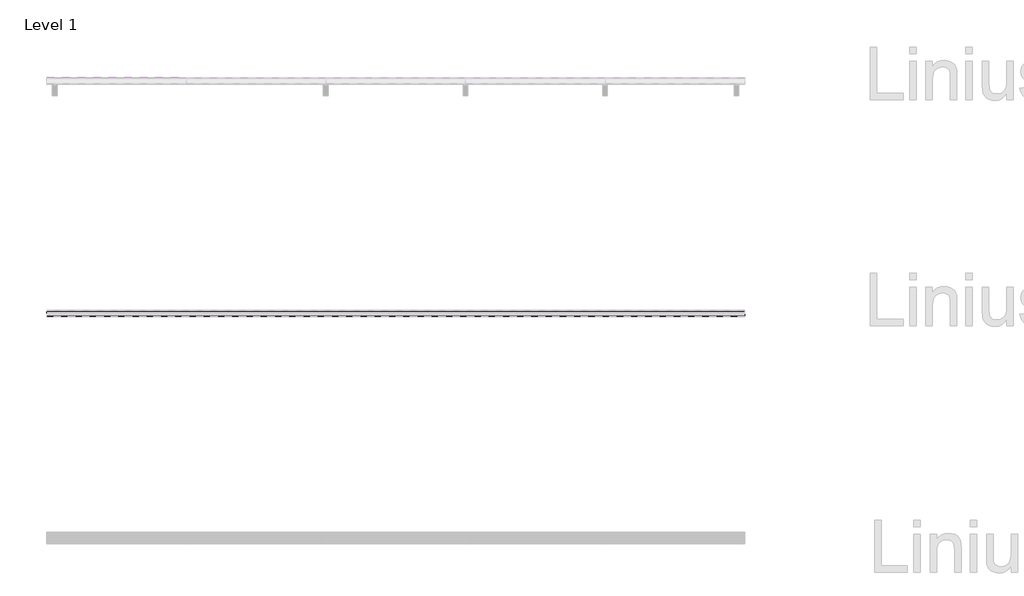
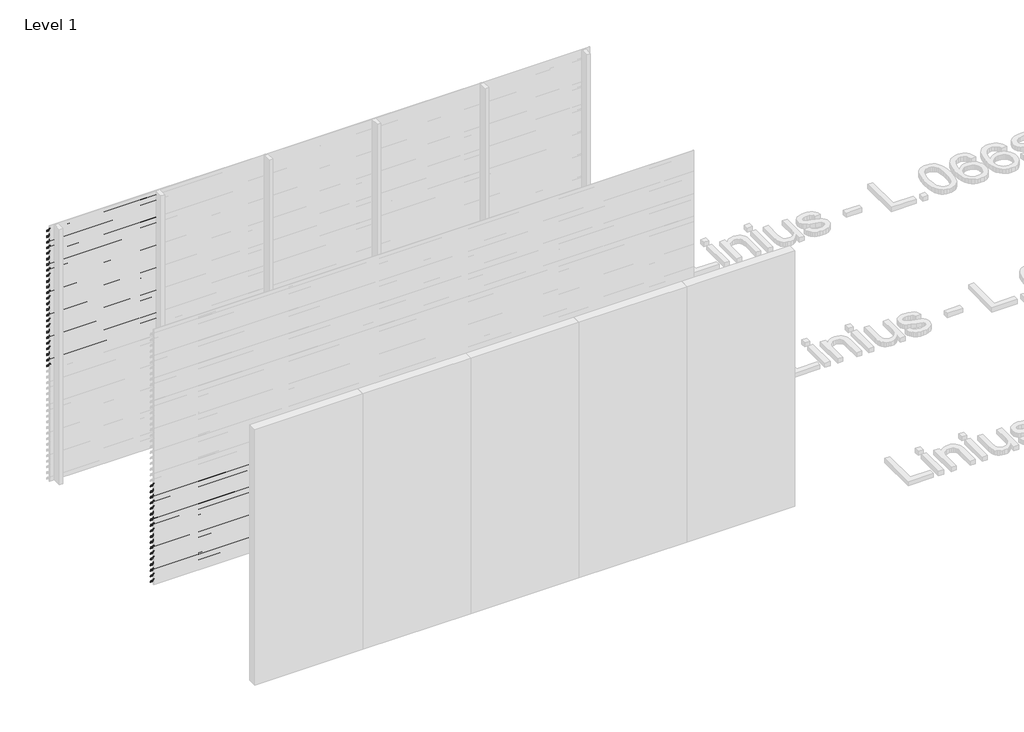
# One storey, part 138 of 540: 43 proxies.
"""IFC4 building model written with IfcOpenShell, lengths in millimetres."""

from ifc_helpers import new_model, si_unit, point, frame, frame_2d, origin, place, context, project, spatial, polyline, circle_curve, trimmed, segment, composite_curve, outline, extrude, element, save

model = new_model("IFC4")

# Units and contexts
model_context = context("Model", 3, world=origin())
ifc_project = project(units=[si_unit("LENGTHUNIT", "METRE", prefix="MILLI")], contexts=[model_context])

# Site, building, storey
site = spatial("IfcSite", under=ifc_project)
building = spatial("IfcBuilding", under=site)
storey = spatial("IfcBuildingStorey", under=building, Name="Level 1", Elevation=0.0)

# Proxies
placement = place(None, origin())
element("IfcBuildingElementProxy", 1, Name="Wall Sweeps", at=placement, inside=storey, context=model_context, shape_type="SweptSolid", body=[
    extrude(outline(composite_curve([segment(trimmed(circle_curve(frame_2d((29013.609548, 2899.7676769)), 26.4944656), [point((29030.5717655, 2920.1205608))], [point((29040.0540136, 2901.3946208))], False, "CARTESIAN"), True, "CONTINUOUS"), segment(polyline([(29040.0540136, 2901.3946208), (29040.0540136, 2893.5), (29038.8040136, 2894.2216933), (29038.8040136, 2899.7676769)]), True, "CONTINUOUS"), segment(trimmed(circle_curve(frame_2d((29013.609548, 2899.7676769)), 25.1944656), [point((29038.8040136, 2899.7676769))], [point((29029.7815085, 2919.086807))], True, "CARTESIAN"), True, "CONTINUOUS"), segment(polyline([(29029.7815085, 2919.086807), (28985.0540136, 2950.3158044), (28985.0540136, 2970.0), (28986.3040136, 2970.0), (28986.3040136, 2951.0285629), (29030.5717655, 2920.1205608)]), True, "CONTINUOUS")], self_intersect=False)), frame((89466.6208097, 0.0, 0.0), z_axis=(1.0, 0.0, 0.0), x_axis=(0.0, 1.0, 0.0)), (0.0, 0.0, 1.0), 1200.0000002),
])
element("IfcBuildingElementProxy", 2, Name="Wall Sweeps", at=placement, inside=storey, context=model_context, shape_type="SweptSolid", body=[
    extrude(outline(composite_curve([segment(trimmed(circle_curve(frame_2d((29013.609548, 2833.7676769)), 26.4944656), [point((29030.5717655, 2854.1205608))], [point((29040.0540136, 2835.3946208))], False, "CARTESIAN"), True, "CONTINUOUS"), segment(polyline([(29040.0540136, 2835.3946208), (29040.0540136, 2827.5), (29038.8040136, 2828.2216933), (29038.8040136, 2833.7676769)]), True, "CONTINUOUS"), segment(trimmed(circle_curve(frame_2d((29013.609548, 2833.7676769)), 25.1944656), [point((29038.8040136, 2833.7676769))], [point((29029.7815085, 2853.086807))], True, "CARTESIAN"), True, "CONTINUOUS"), segment(polyline([(29029.7815085, 2853.086807), (28985.0540136, 2884.3158044), (28985.0540136, 2904.0), (28986.3040136, 2904.0), (28986.3040136, 2885.0285629), (29030.5717655, 2854.1205608)]), True, "CONTINUOUS")], self_intersect=False)), frame((89466.6208097, 0.0, 0.0), z_axis=(1.0, 0.0, 0.0), x_axis=(0.0, 1.0, 0.0)), (0.0, 0.0, 1.0), 1200.0000002),
])
element("IfcBuildingElementProxy", 3, Name="Wall Sweeps", at=placement, inside=storey, context=model_context, shape_type="SweptSolid", body=[
    extrude(outline(composite_curve([segment(trimmed(circle_curve(frame_2d((29013.609548, 2767.7676769)), 26.4944656), [point((29030.5717655, 2788.1205608))], [point((29040.0540136, 2769.3946208))], False, "CARTESIAN"), True, "CONTINUOUS"), segment(polyline([(29040.0540136, 2769.3946208), (29040.0540136, 2761.5), (29038.8040136, 2762.2216933), (29038.8040136, 2767.7676769)]), True, "CONTINUOUS"), segment(trimmed(circle_curve(frame_2d((29013.609548, 2767.7676769)), 25.1944656), [point((29038.8040136, 2767.7676769))], [point((29029.7815085, 2787.086807))], True, "CARTESIAN"), True, "CONTINUOUS"), segment(polyline([(29029.7815085, 2787.086807), (28985.0540136, 2818.3158044), (28985.0540136, 2838.0), (28986.3040136, 2838.0), (28986.3040136, 2819.0285629), (29030.5717655, 2788.1205608)]), True, "CONTINUOUS")], self_intersect=False)), frame((89466.6208097, 0.0, 0.0), z_axis=(1.0, 0.0, 0.0), x_axis=(0.0, 1.0, 0.0)), (0.0, 0.0, 1.0), 1200.0000002),
])
element("IfcBuildingElementProxy", 4, Name="Wall Sweeps", at=placement, inside=storey, context=model_context, shape_type="SweptSolid", body=[
    extrude(outline(composite_curve([segment(trimmed(circle_curve(frame_2d((29013.609548, 2701.7676769)), 26.4944656), [point((29030.5717655, 2722.1205608))], [point((29040.0540136, 2703.3946208))], False, "CARTESIAN"), True, "CONTINUOUS"), segment(polyline([(29040.0540136, 2703.3946208), (29040.0540136, 2695.5), (29038.8040136, 2696.2216933), (29038.8040136, 2701.7676769)]), True, "CONTINUOUS"), segment(trimmed(circle_curve(frame_2d((29013.609548, 2701.7676769)), 25.1944656), [point((29038.8040136, 2701.7676769))], [point((29029.7815085, 2721.086807))], True, "CARTESIAN"), True, "CONTINUOUS"), segment(polyline([(29029.7815085, 2721.086807), (28985.0540136, 2752.3158044), (28985.0540136, 2772.0), (28986.3040136, 2772.0), (28986.3040136, 2753.0285629), (29030.5717655, 2722.1205608)]), True, "CONTINUOUS")], self_intersect=False)), frame((89466.6208097, 0.0, 0.0), z_axis=(1.0, 0.0, 0.0), x_axis=(0.0, 1.0, 0.0)), (0.0, 0.0, 1.0), 1200.0000002),
])
element("IfcBuildingElementProxy", 5, Name="Wall Sweeps", at=placement, inside=storey, context=model_context, shape_type="SweptSolid", body=[
    extrude(outline(composite_curve([segment(trimmed(circle_curve(frame_2d((29013.609548, 2635.7676769)), 26.4944656), [point((29030.5717655, 2656.1205608))], [point((29040.0540136, 2637.3946208))], False, "CARTESIAN"), True, "CONTINUOUS"), segment(polyline([(29040.0540136, 2637.3946208), (29040.0540136, 2629.5), (29038.8040136, 2630.2216933), (29038.8040136, 2635.7676769)]), True, "CONTINUOUS"), segment(trimmed(circle_curve(frame_2d((29013.609548, 2635.7676769)), 25.1944656), [point((29038.8040136, 2635.7676769))], [point((29029.7815085, 2655.086807))], True, "CARTESIAN"), True, "CONTINUOUS"), segment(polyline([(29029.7815085, 2655.086807), (28985.0540136, 2686.3158044), (28985.0540136, 2706.0), (28986.3040136, 2706.0), (28986.3040136, 2687.0285629), (29030.5717655, 2656.1205608)]), True, "CONTINUOUS")], self_intersect=False)), frame((89466.6208097, 0.0, 0.0), z_axis=(1.0, 0.0, 0.0), x_axis=(0.0, 1.0, 0.0)), (0.0, 0.0, 1.0), 1200.0000002),
])
element("IfcBuildingElementProxy", 6, Name="Wall Sweeps", at=placement, inside=storey, context=model_context, shape_type="SweptSolid", body=[
    extrude(outline(composite_curve([segment(trimmed(circle_curve(frame_2d((29013.609548, 2569.7676769)), 26.4944656), [point((29030.5717655, 2590.1205608))], [point((29040.0540136, 2571.3946208))], False, "CARTESIAN"), True, "CONTINUOUS"), segment(polyline([(29040.0540136, 2571.3946208), (29040.0540136, 2563.5), (29038.8040136, 2564.2216933), (29038.8040136, 2569.7676769)]), True, "CONTINUOUS"), segment(trimmed(circle_curve(frame_2d((29013.609548, 2569.7676769)), 25.1944656), [point((29038.8040136, 2569.7676769))], [point((29029.7815085, 2589.086807))], True, "CARTESIAN"), True, "CONTINUOUS"), segment(polyline([(29029.7815085, 2589.086807), (28985.0540136, 2620.3158044), (28985.0540136, 2640.0), (28986.3040136, 2640.0), (28986.3040136, 2621.0285629), (29030.5717655, 2590.1205608)]), True, "CONTINUOUS")], self_intersect=False)), frame((89466.6208097, 0.0, 0.0), z_axis=(1.0, 0.0, 0.0), x_axis=(0.0, 1.0, 0.0)), (0.0, 0.0, 1.0), 1200.0000002),
])
element("IfcBuildingElementProxy", 7, Name="Wall Sweeps", at=placement, inside=storey, context=model_context, shape_type="SweptSolid", body=[
    extrude(outline(composite_curve([segment(trimmed(circle_curve(frame_2d((29013.609548, 2503.7676769)), 26.4944656), [point((29030.5717655, 2524.1205608))], [point((29040.0540136, 2505.3946208))], False, "CARTESIAN"), True, "CONTINUOUS"), segment(polyline([(29040.0540136, 2505.3946208), (29040.0540136, 2497.5), (29038.8040136, 2498.2216933), (29038.8040136, 2503.7676769)]), True, "CONTINUOUS"), segment(trimmed(circle_curve(frame_2d((29013.609548, 2503.7676769)), 25.1944656), [point((29038.8040136, 2503.7676769))], [point((29029.7815085, 2523.086807))], True, "CARTESIAN"), True, "CONTINUOUS"), segment(polyline([(29029.7815085, 2523.086807), (28985.0540136, 2554.3158044), (28985.0540136, 2574.0), (28986.3040136, 2574.0), (28986.3040136, 2555.0285629), (29030.5717655, 2524.1205608)]), True, "CONTINUOUS")], self_intersect=False)), frame((89466.6208097, 0.0, 0.0), z_axis=(1.0, 0.0, 0.0), x_axis=(0.0, 1.0, 0.0)), (0.0, 0.0, 1.0), 1200.0000002),
])
element("IfcBuildingElementProxy", 8, Name="Wall Sweeps", at=placement, inside=storey, context=model_context, shape_type="SweptSolid", body=[
    extrude(outline(composite_curve([segment(trimmed(circle_curve(frame_2d((29013.609548, 2437.7676769)), 26.4944656), [point((29030.5717655, 2458.1205608))], [point((29040.0540136, 2439.3946208))], False, "CARTESIAN"), True, "CONTINUOUS"), segment(polyline([(29040.0540136, 2439.3946208), (29040.0540136, 2431.5), (29038.8040136, 2432.2216933), (29038.8040136, 2437.7676769)]), True, "CONTINUOUS"), segment(trimmed(circle_curve(frame_2d((29013.609548, 2437.7676769)), 25.1944656), [point((29038.8040136, 2437.7676769))], [point((29029.7815085, 2457.086807))], True, "CARTESIAN"), True, "CONTINUOUS"), segment(polyline([(29029.7815085, 2457.086807), (28985.0540136, 2488.3158044), (28985.0540136, 2508.0), (28986.3040136, 2508.0), (28986.3040136, 2489.0285629), (29030.5717655, 2458.1205608)]), True, "CONTINUOUS")], self_intersect=False)), frame((89466.6208097, 0.0, 0.0), z_axis=(1.0, 0.0, 0.0), x_axis=(0.0, 1.0, 0.0)), (0.0, 0.0, 1.0), 1200.0000002),
])
element("IfcBuildingElementProxy", 9, Name="Wall Sweeps", at=placement, inside=storey, context=model_context, shape_type="SweptSolid", body=[
    extrude(outline(composite_curve([segment(trimmed(circle_curve(frame_2d((29013.609548, 2371.7676769)), 26.4944656), [point((29030.5717655, 2392.1205608))], [point((29040.0540136, 2373.3946208))], False, "CARTESIAN"), True, "CONTINUOUS"), segment(polyline([(29040.0540136, 2373.3946208), (29040.0540136, 2365.5), (29038.8040136, 2366.2216933), (29038.8040136, 2371.7676769)]), True, "CONTINUOUS"), segment(trimmed(circle_curve(frame_2d((29013.609548, 2371.7676769)), 25.1944656), [point((29038.8040136, 2371.7676769))], [point((29029.7815085, 2391.086807))], True, "CARTESIAN"), True, "CONTINUOUS"), segment(polyline([(29029.7815085, 2391.086807), (28985.0540136, 2422.3158044), (28985.0540136, 2442.0), (28986.3040136, 2442.0), (28986.3040136, 2423.0285629), (29030.5717655, 2392.1205608)]), True, "CONTINUOUS")], self_intersect=False)), frame((89466.6208097, 0.0, 0.0), z_axis=(1.0, 0.0, 0.0), x_axis=(0.0, 1.0, 0.0)), (0.0, 0.0, 1.0), 1200.0000002),
])
element("IfcBuildingElementProxy", 10, Name="Wall Sweeps", at=placement, inside=storey, context=model_context, shape_type="SweptSolid", body=[
    extrude(outline(composite_curve([segment(trimmed(circle_curve(frame_2d((29013.609548, 2305.7676769)), 26.4944656), [point((29030.5717655, 2326.1205608))], [point((29040.0540136, 2307.3946208))], False, "CARTESIAN"), True, "CONTINUOUS"), segment(polyline([(29040.0540136, 2307.3946208), (29040.0540136, 2299.5), (29038.8040136, 2300.2216933), (29038.8040136, 2305.7676769)]), True, "CONTINUOUS"), segment(trimmed(circle_curve(frame_2d((29013.609548, 2305.7676769)), 25.1944656), [point((29038.8040136, 2305.7676769))], [point((29029.7815085, 2325.086807))], True, "CARTESIAN"), True, "CONTINUOUS"), segment(polyline([(29029.7815085, 2325.086807), (28985.0540136, 2356.3158044), (28985.0540136, 2376.0), (28986.3040136, 2376.0), (28986.3040136, 2357.0285629), (29030.5717655, 2326.1205608)]), True, "CONTINUOUS")], self_intersect=False)), frame((89466.6208097, 0.0, 0.0), z_axis=(1.0, 0.0, 0.0), x_axis=(0.0, 1.0, 0.0)), (0.0, 0.0, 1.0), 1200.0000002),
])
element("IfcBuildingElementProxy", 11, Name="Wall Sweeps", at=placement, inside=storey, context=model_context, shape_type="SweptSolid", body=[
    extrude(outline(composite_curve([segment(trimmed(circle_curve(frame_2d((29013.609548, 2239.7676769)), 26.4944656), [point((29030.5717655, 2260.1205608))], [point((29040.0540136, 2241.3946208))], False, "CARTESIAN"), True, "CONTINUOUS"), segment(polyline([(29040.0540136, 2241.3946208), (29040.0540136, 2233.5), (29038.8040136, 2234.2216933), (29038.8040136, 2239.7676769)]), True, "CONTINUOUS"), segment(trimmed(circle_curve(frame_2d((29013.609548, 2239.7676769)), 25.1944656), [point((29038.8040136, 2239.7676769))], [point((29029.7815085, 2259.086807))], True, "CARTESIAN"), True, "CONTINUOUS"), segment(polyline([(29029.7815085, 2259.086807), (28985.0540136, 2290.3158044), (28985.0540136, 2310.0), (28986.3040136, 2310.0), (28986.3040136, 2291.0285629), (29030.5717655, 2260.1205608)]), True, "CONTINUOUS")], self_intersect=False)), frame((89466.6208097, 0.0, 0.0), z_axis=(1.0, 0.0, 0.0), x_axis=(0.0, 1.0, 0.0)), (0.0, 0.0, 1.0), 1200.0000002),
])
element("IfcBuildingElementProxy", 12, Name="Wall Sweeps", at=placement, inside=storey, context=model_context, shape_type="SweptSolid", body=[
    extrude(outline(composite_curve([segment(trimmed(circle_curve(frame_2d((29013.609548, 2173.7676769)), 26.4944656), [point((29030.5717655, 2194.1205608))], [point((29040.0540136, 2175.3946208))], False, "CARTESIAN"), True, "CONTINUOUS"), segment(polyline([(29040.0540136, 2175.3946208), (29040.0540136, 2167.5), (29038.8040136, 2168.2216933), (29038.8040136, 2173.7676769)]), True, "CONTINUOUS"), segment(trimmed(circle_curve(frame_2d((29013.609548, 2173.7676769)), 25.1944656), [point((29038.8040136, 2173.7676769))], [point((29029.7815085, 2193.086807))], True, "CARTESIAN"), True, "CONTINUOUS"), segment(polyline([(29029.7815085, 2193.086807), (28985.0540136, 2224.3158044), (28985.0540136, 2244.0), (28986.3040136, 2244.0), (28986.3040136, 2225.0285629), (29030.5717655, 2194.1205608)]), True, "CONTINUOUS")], self_intersect=False)), frame((89466.6208097, 0.0, 0.0), z_axis=(1.0, 0.0, 0.0), x_axis=(0.0, 1.0, 0.0)), (0.0, 0.0, 1.0), 1200.0000002),
])
element("IfcBuildingElementProxy", 13, Name="Wall Sweeps", at=placement, inside=storey, context=model_context, shape_type="SweptSolid", body=[
    extrude(outline(composite_curve([segment(trimmed(circle_curve(frame_2d((29013.609548, 2107.7676769)), 26.4944656), [point((29030.5717655, 2128.1205608))], [point((29040.0540136, 2109.3946208))], False, "CARTESIAN"), True, "CONTINUOUS"), segment(polyline([(29040.0540136, 2109.3946208), (29040.0540136, 2101.5), (29038.8040136, 2102.2216933), (29038.8040136, 2107.7676769)]), True, "CONTINUOUS"), segment(trimmed(circle_curve(frame_2d((29013.609548, 2107.7676769)), 25.1944656), [point((29038.8040136, 2107.7676769))], [point((29029.7815085, 2127.086807))], True, "CARTESIAN"), True, "CONTINUOUS"), segment(polyline([(29029.7815085, 2127.086807), (28985.0540136, 2158.3158044), (28985.0540136, 2178.0), (28986.3040136, 2178.0), (28986.3040136, 2159.0285629), (29030.5717655, 2128.1205608)]), True, "CONTINUOUS")], self_intersect=False)), frame((89466.6208097, 0.0, 0.0), z_axis=(1.0, 0.0, 0.0), x_axis=(0.0, 1.0, 0.0)), (0.0, 0.0, 1.0), 1200.0000002),
])
element("IfcBuildingElementProxy", 14, Name="Wall Sweeps", at=placement, inside=storey, context=model_context, shape_type="SweptSolid", body=[
    extrude(outline(composite_curve([segment(trimmed(circle_curve(frame_2d((29013.609548, 2041.7676769)), 26.4944656), [point((29030.5717655, 2062.1205608))], [point((29040.0540136, 2043.3946208))], False, "CARTESIAN"), True, "CONTINUOUS"), segment(polyline([(29040.0540136, 2043.3946208), (29040.0540136, 2035.5), (29038.8040136, 2036.2216933), (29038.8040136, 2041.7676769)]), True, "CONTINUOUS"), segment(trimmed(circle_curve(frame_2d((29013.609548, 2041.7676769)), 25.1944656), [point((29038.8040136, 2041.7676769))], [point((29029.7815085, 2061.086807))], True, "CARTESIAN"), True, "CONTINUOUS"), segment(polyline([(29029.7815085, 2061.086807), (28985.0540136, 2092.3158044), (28985.0540136, 2112.0), (28986.3040136, 2112.0), (28986.3040136, 2093.0285629), (29030.5717655, 2062.1205608)]), True, "CONTINUOUS")], self_intersect=False)), frame((89466.6208097, 0.0, 0.0), z_axis=(1.0, 0.0, 0.0), x_axis=(0.0, 1.0, 0.0)), (0.0, 0.0, 1.0), 1200.0000002),
])
element("IfcBuildingElementProxy", 15, Name="Wall Sweeps", at=placement, inside=storey, context=model_context, shape_type="SweptSolid", body=[
    extrude(outline(composite_curve([segment(trimmed(circle_curve(frame_2d((29013.609548, 1975.7676769)), 26.4944656), [point((29030.5717655, 1996.1205608))], [point((29040.0540136, 1977.3946208))], False, "CARTESIAN"), True, "CONTINUOUS"), segment(polyline([(29040.0540136, 1977.3946208), (29040.0540136, 1969.5), (29038.8040136, 1970.2216933), (29038.8040136, 1975.7676769)]), True, "CONTINUOUS"), segment(trimmed(circle_curve(frame_2d((29013.609548, 1975.7676769)), 25.1944656), [point((29038.8040136, 1975.7676769))], [point((29029.7815085, 1995.086807))], True, "CARTESIAN"), True, "CONTINUOUS"), segment(polyline([(29029.7815085, 1995.086807), (28985.0540136, 2026.3158044), (28985.0540136, 2046.0), (28986.3040136, 2046.0), (28986.3040136, 2027.0285629), (29030.5717655, 1996.1205608)]), True, "CONTINUOUS")], self_intersect=False)), frame((89466.6208097, 0.0, 0.0), z_axis=(1.0, 0.0, 0.0), x_axis=(0.0, 1.0, 0.0)), (0.0, 0.0, 1.0), 1200.0000002),
])
element("IfcBuildingElementProxy", 16, Name="Wall Sweeps", at=placement, inside=storey, context=model_context, shape_type="SweptSolid", body=[
    extrude(outline(composite_curve([segment(trimmed(circle_curve(frame_2d((29013.609548, 1909.7676769)), 26.4944656), [point((29030.5717655, 1930.1205608))], [point((29040.0540136, 1911.3946208))], False, "CARTESIAN"), True, "CONTINUOUS"), segment(polyline([(29040.0540136, 1911.3946208), (29040.0540136, 1903.5), (29038.8040136, 1904.2216933), (29038.8040136, 1909.7676769)]), True, "CONTINUOUS"), segment(trimmed(circle_curve(frame_2d((29013.609548, 1909.7676769)), 25.1944656), [point((29038.8040136, 1909.7676769))], [point((29029.7815085, 1929.086807))], True, "CARTESIAN"), True, "CONTINUOUS"), segment(polyline([(29029.7815085, 1929.086807), (28985.0540136, 1960.3158044), (28985.0540136, 1980.0), (28986.3040136, 1980.0), (28986.3040136, 1961.0285629), (29030.5717655, 1930.1205608)]), True, "CONTINUOUS")], self_intersect=False)), frame((89466.6208097, 0.0, 0.0), z_axis=(1.0, 0.0, 0.0), x_axis=(0.0, 1.0, 0.0)), (0.0, 0.0, 1.0), 1200.0000002),
])
element("IfcBuildingElementProxy", 17, Name="Wall Sweeps", at=placement, inside=storey, context=model_context, shape_type="SweptSolid", body=[
    extrude(outline(composite_curve([segment(trimmed(circle_curve(frame_2d((29013.609548, 1843.7676769)), 26.4944656), [point((29030.5717655, 1864.1205608))], [point((29040.0540136, 1845.3946208))], False, "CARTESIAN"), True, "CONTINUOUS"), segment(polyline([(29040.0540136, 1845.3946208), (29040.0540136, 1837.5), (29038.8040136, 1838.2216933), (29038.8040136, 1843.7676769)]), True, "CONTINUOUS"), segment(trimmed(circle_curve(frame_2d((29013.609548, 1843.7676769)), 25.1944656), [point((29038.8040136, 1843.7676769))], [point((29029.7815085, 1863.086807))], True, "CARTESIAN"), True, "CONTINUOUS"), segment(polyline([(29029.7815085, 1863.086807), (28985.0540136, 1894.3158044), (28985.0540136, 1914.0), (28986.3040136, 1914.0), (28986.3040136, 1895.0285629), (29030.5717655, 1864.1205608)]), True, "CONTINUOUS")], self_intersect=False)), frame((89466.6208097, 0.0, 0.0), z_axis=(1.0, 0.0, 0.0), x_axis=(0.0, 1.0, 0.0)), (0.0, 0.0, 1.0), 1200.0000002),
])
element("IfcBuildingElementProxy", 18, Name="Wall Sweeps", at=placement, inside=storey, context=model_context, shape_type="SweptSolid", body=[
    extrude(outline(composite_curve([segment(trimmed(circle_curve(frame_2d((29013.609548, 1777.7676769)), 26.4944656), [point((29030.5717655, 1798.1205608))], [point((29040.0540136, 1779.3946208))], False, "CARTESIAN"), True, "CONTINUOUS"), segment(polyline([(29040.0540136, 1779.3946208), (29040.0540136, 1771.5), (29038.8040136, 1772.2216933), (29038.8040136, 1777.7676769)]), True, "CONTINUOUS"), segment(trimmed(circle_curve(frame_2d((29013.609548, 1777.7676769)), 25.1944656), [point((29038.8040136, 1777.7676769))], [point((29029.7815085, 1797.086807))], True, "CARTESIAN"), True, "CONTINUOUS"), segment(polyline([(29029.7815085, 1797.086807), (28985.0540136, 1828.3158044), (28985.0540136, 1848.0), (28986.3040136, 1848.0), (28986.3040136, 1829.0285629), (29030.5717655, 1798.1205608)]), True, "CONTINUOUS")], self_intersect=False)), frame((89466.6208097, 0.0, 0.0), z_axis=(1.0, 0.0, 0.0), x_axis=(0.0, 1.0, 0.0)), (0.0, 0.0, 1.0), 1200.0000002),
])
element("IfcBuildingElementProxy", 19, Name="Wall Sweeps", at=placement, inside=storey, context=model_context, shape_type="SweptSolid", body=[
    extrude(outline(composite_curve([segment(trimmed(circle_curve(frame_2d((29013.609548, 1711.7676769)), 26.4944656), [point((29030.5717655, 1732.1205608))], [point((29040.0540136, 1713.3946208))], False, "CARTESIAN"), True, "CONTINUOUS"), segment(polyline([(29040.0540136, 1713.3946208), (29040.0540136, 1705.5), (29038.8040136, 1706.2216933), (29038.8040136, 1711.7676769)]), True, "CONTINUOUS"), segment(trimmed(circle_curve(frame_2d((29013.609548, 1711.7676769)), 25.1944656), [point((29038.8040136, 1711.7676769))], [point((29029.7815085, 1731.086807))], True, "CARTESIAN"), True, "CONTINUOUS"), segment(polyline([(29029.7815085, 1731.086807), (28985.0540136, 1762.3158044), (28985.0540136, 1782.0), (28986.3040136, 1782.0), (28986.3040136, 1763.0285629), (29030.5717655, 1732.1205608)]), True, "CONTINUOUS")], self_intersect=False)), frame((89466.6208097, 0.0, 0.0), z_axis=(1.0, 0.0, 0.0), x_axis=(0.0, 1.0, 0.0)), (0.0, 0.0, 1.0), 1200.0000002),
])
element("IfcBuildingElementProxy", 20, Name="Wall Sweeps", at=placement, inside=storey, context=model_context, shape_type="SweptSolid", body=[
    extrude(outline(composite_curve([segment(trimmed(circle_curve(frame_2d((29013.609548, 1645.7676769)), 26.4944656), [point((29030.5717655, 1666.1205608))], [point((29040.0540136, 1647.3946208))], False, "CARTESIAN"), True, "CONTINUOUS"), segment(polyline([(29040.0540136, 1647.3946208), (29040.0540136, 1639.5), (29038.8040136, 1640.2216933), (29038.8040136, 1645.7676769)]), True, "CONTINUOUS"), segment(trimmed(circle_curve(frame_2d((29013.609548, 1645.7676769)), 25.1944656), [point((29038.8040136, 1645.7676769))], [point((29029.7815085, 1665.086807))], True, "CARTESIAN"), True, "CONTINUOUS"), segment(polyline([(29029.7815085, 1665.086807), (28985.0540136, 1696.3158044), (28985.0540136, 1716.0), (28986.3040136, 1716.0), (28986.3040136, 1697.0285629), (29030.5717655, 1666.1205608)]), True, "CONTINUOUS")], self_intersect=False)), frame((89466.6208097, 0.0, 0.0), z_axis=(1.0, 0.0, 0.0), x_axis=(0.0, 1.0, 0.0)), (0.0, 0.0, 1.0), 1200.0000002),
])
element("IfcBuildingElementProxy", 21, Name="Wall Sweeps", at=placement, inside=storey, context=model_context, shape_type="SweptSolid", body=[
    extrude(outline(composite_curve([segment(trimmed(circle_curve(frame_2d((29013.609548, 1579.7676769)), 26.4944656), [point((29030.5717655, 1600.1205608))], [point((29040.0540136, 1581.3946208))], False, "CARTESIAN"), True, "CONTINUOUS"), segment(polyline([(29040.0540136, 1581.3946208), (29040.0540136, 1573.5), (29038.8040136, 1574.2216933), (29038.8040136, 1579.7676769)]), True, "CONTINUOUS"), segment(trimmed(circle_curve(frame_2d((29013.609548, 1579.7676769)), 25.1944656), [point((29038.8040136, 1579.7676769))], [point((29029.7815085, 1599.086807))], True, "CARTESIAN"), True, "CONTINUOUS"), segment(polyline([(29029.7815085, 1599.086807), (28985.0540136, 1630.3158044), (28985.0540136, 1650.0), (28986.3040136, 1650.0), (28986.3040136, 1631.0285629), (29030.5717655, 1600.1205608)]), True, "CONTINUOUS")], self_intersect=False)), frame((89466.6208097, 0.0, 0.0), z_axis=(1.0, 0.0, 0.0), x_axis=(0.0, 1.0, 0.0)), (0.0, 0.0, 1.0), 1200.0000002),
])
element("IfcBuildingElementProxy", 22, Name="Wall Sweeps", at=placement, inside=storey, context=model_context, shape_type="SweptSolid", body=[
    extrude(outline(composite_curve([segment(trimmed(circle_curve(frame_2d((29013.609548, 1513.7676769)), 26.4944656), [point((29030.5717655, 1534.1205608))], [point((29040.0540136, 1515.3946208))], False, "CARTESIAN"), True, "CONTINUOUS"), segment(polyline([(29040.0540136, 1515.3946208), (29040.0540136, 1507.5), (29038.8040136, 1508.2216933), (29038.8040136, 1513.7676769)]), True, "CONTINUOUS"), segment(trimmed(circle_curve(frame_2d((29013.609548, 1513.7676769)), 25.1944656), [point((29038.8040136, 1513.7676769))], [point((29029.7815085, 1533.086807))], True, "CARTESIAN"), True, "CONTINUOUS"), segment(polyline([(29029.7815085, 1533.086807), (28985.0540136, 1564.3158044), (28985.0540136, 1584.0), (28986.3040136, 1584.0), (28986.3040136, 1565.0285629), (29030.5717655, 1534.1205608)]), True, "CONTINUOUS")], self_intersect=False)), frame((89466.6208097, 0.0, 0.0), z_axis=(1.0, 0.0, 0.0), x_axis=(0.0, 1.0, 0.0)), (0.0, 0.0, 1.0), 1200.0000002),
])
element("IfcBuildingElementProxy", 23, Name="Wall Sweeps", at=placement, inside=storey, context=model_context, shape_type="SweptSolid", body=[
    extrude(outline(composite_curve([segment(trimmed(circle_curve(frame_2d((29013.609548, 1447.7676769)), 26.4944656), [point((29030.5717655, 1468.1205608))], [point((29040.0540136, 1449.3946208))], False, "CARTESIAN"), True, "CONTINUOUS"), segment(polyline([(29040.0540136, 1449.3946208), (29040.0540136, 1441.5), (29038.8040136, 1442.2216933), (29038.8040136, 1447.7676769)]), True, "CONTINUOUS"), segment(trimmed(circle_curve(frame_2d((29013.609548, 1447.7676769)), 25.1944656), [point((29038.8040136, 1447.7676769))], [point((29029.7815085, 1467.086807))], True, "CARTESIAN"), True, "CONTINUOUS"), segment(polyline([(29029.7815085, 1467.086807), (28985.0540136, 1498.3158044), (28985.0540136, 1518.0), (28986.3040136, 1518.0), (28986.3040136, 1499.0285629), (29030.5717655, 1468.1205608)]), True, "CONTINUOUS")], self_intersect=False)), frame((89466.6208097, 0.0, 0.0), z_axis=(1.0, 0.0, 0.0), x_axis=(0.0, 1.0, 0.0)), (0.0, 0.0, 1.0), 1200.0000002),
])
element("IfcBuildingElementProxy", 24, Name="Wall Sweeps", at=placement, inside=storey, context=model_context, shape_type="SweptSolid", body=[
    extrude(outline(composite_curve([segment(trimmed(circle_curve(frame_2d((29013.609548, 1381.7676769)), 26.4944656), [point((29030.5717655, 1402.1205608))], [point((29040.0540136, 1383.3946208))], False, "CARTESIAN"), True, "CONTINUOUS"), segment(polyline([(29040.0540136, 1383.3946208), (29040.0540136, 1375.5), (29038.8040136, 1376.2216933), (29038.8040136, 1381.7676769)]), True, "CONTINUOUS"), segment(trimmed(circle_curve(frame_2d((29013.609548, 1381.7676769)), 25.1944656), [point((29038.8040136, 1381.7676769))], [point((29029.7815085, 1401.086807))], True, "CARTESIAN"), True, "CONTINUOUS"), segment(polyline([(29029.7815085, 1401.086807), (28985.0540136, 1432.3158044), (28985.0540136, 1452.0), (28986.3040136, 1452.0), (28986.3040136, 1433.0285629), (29030.5717655, 1402.1205608)]), True, "CONTINUOUS")], self_intersect=False)), frame((89466.6208097, 0.0, 0.0), z_axis=(1.0, 0.0, 0.0), x_axis=(0.0, 1.0, 0.0)), (0.0, 0.0, 1.0), 1200.0000002),
])
element("IfcBuildingElementProxy", 25, Name="Wall Sweeps", at=placement, inside=storey, context=model_context, shape_type="SweptSolid", body=[
    extrude(outline(composite_curve([segment(trimmed(circle_curve(frame_2d((29013.609548, 1315.7676769)), 26.4944656), [point((29030.5717655, 1336.1205608))], [point((29040.0540136, 1317.3946208))], False, "CARTESIAN"), True, "CONTINUOUS"), segment(polyline([(29040.0540136, 1317.3946208), (29040.0540136, 1309.5), (29038.8040136, 1310.2216933), (29038.8040136, 1315.7676769)]), True, "CONTINUOUS"), segment(trimmed(circle_curve(frame_2d((29013.609548, 1315.7676769)), 25.1944656), [point((29038.8040136, 1315.7676769))], [point((29029.7815085, 1335.086807))], True, "CARTESIAN"), True, "CONTINUOUS"), segment(polyline([(29029.7815085, 1335.086807), (28985.0540136, 1366.3158044), (28985.0540136, 1386.0), (28986.3040136, 1386.0), (28986.3040136, 1367.0285629), (29030.5717655, 1336.1205608)]), True, "CONTINUOUS")], self_intersect=False)), frame((89466.6208097, 0.0, 0.0), z_axis=(1.0, 0.0, 0.0), x_axis=(0.0, 1.0, 0.0)), (0.0, 0.0, 1.0), 1200.0000002),
])
element("IfcBuildingElementProxy", 26, Name="Wall Sweeps", at=placement, inside=storey, context=model_context, shape_type="SweptSolid", body=[
    extrude(outline(composite_curve([segment(trimmed(circle_curve(frame_2d((27013.609548, 1117.7676769)), 26.4944656), [point((27030.5717655, 1138.1205608))], [point((27040.0540136, 1119.3946208))], False, "CARTESIAN"), True, "CONTINUOUS"), segment(polyline([(27040.0540136, 1119.3946208), (27040.0540136, 1111.5), (27038.8040136, 1112.2216933), (27038.8040136, 1117.7676769)]), True, "CONTINUOUS"), segment(trimmed(circle_curve(frame_2d((27013.609548, 1117.7676769)), 25.1944656), [point((27038.8040136, 1117.7676769))], [point((27029.7815085, 1137.086807))], True, "CARTESIAN"), True, "CONTINUOUS"), segment(polyline([(27029.7815085, 1137.086807), (26985.0540136, 1168.3158044), (26985.0540136, 1188.0), (26986.3040136, 1188.0), (26986.3040136, 1169.0285629), (27030.5717655, 1138.1205608)]), True, "CONTINUOUS")], self_intersect=False)), frame((89466.6208097, 0.0, 0.0), z_axis=(1.0, 0.0, 0.0), x_axis=(0.0, 1.0, 0.0)), (0.0, 0.0, 1.0), 6000.0),
])
element("IfcBuildingElementProxy", 27, Name="Wall Sweeps", at=placement, inside=storey, context=model_context, shape_type="SweptSolid", body=[
    extrude(outline(composite_curve([segment(trimmed(circle_curve(frame_2d((27013.609548, 1051.7676769)), 26.4944656), [point((27030.5717655, 1072.1205608))], [point((27040.0540136, 1053.3946208))], False, "CARTESIAN"), True, "CONTINUOUS"), segment(polyline([(27040.0540136, 1053.3946208), (27040.0540136, 1045.5), (27038.8040136, 1046.2216933), (27038.8040136, 1051.7676769)]), True, "CONTINUOUS"), segment(trimmed(circle_curve(frame_2d((27013.609548, 1051.7676769)), 25.1944656), [point((27038.8040136, 1051.7676769))], [point((27029.7815085, 1071.086807))], True, "CARTESIAN"), True, "CONTINUOUS"), segment(polyline([(27029.7815085, 1071.086807), (26985.0540136, 1102.3158044), (26985.0540136, 1122.0), (26986.3040136, 1122.0), (26986.3040136, 1103.0285629), (27030.5717655, 1072.1205608)]), True, "CONTINUOUS")], self_intersect=False)), frame((89466.6208097, 0.0, 0.0), z_axis=(1.0, 0.0, 0.0), x_axis=(0.0, 1.0, 0.0)), (0.0, 0.0, 1.0), 6000.0),
])
element("IfcBuildingElementProxy", 28, Name="Wall Sweeps", at=placement, inside=storey, context=model_context, shape_type="SweptSolid", body=[
    extrude(outline(composite_curve([segment(trimmed(circle_curve(frame_2d((27013.609548, 985.7676769)), 26.4944656), [point((27030.5717655, 1006.1205608))], [point((27040.0540136, 987.3946208))], False, "CARTESIAN"), True, "CONTINUOUS"), segment(polyline([(27040.0540136, 987.3946208), (27040.0540136, 979.5), (27038.8040136, 980.2216933), (27038.8040136, 985.7676769)]), True, "CONTINUOUS"), segment(trimmed(circle_curve(frame_2d((27013.609548, 985.7676769)), 25.1944656), [point((27038.8040136, 985.7676769))], [point((27029.7815085, 1005.086807))], True, "CARTESIAN"), True, "CONTINUOUS"), segment(polyline([(27029.7815085, 1005.086807), (26985.0540136, 1036.3158044), (26985.0540136, 1056.0), (26986.3040136, 1056.0), (26986.3040136, 1037.0285629), (27030.5717655, 1006.1205608)]), True, "CONTINUOUS")], self_intersect=False)), frame((89466.6208097, 0.0, 0.0), z_axis=(1.0, 0.0, 0.0), x_axis=(0.0, 1.0, 0.0)), (0.0, 0.0, 1.0), 6000.0),
])
element("IfcBuildingElementProxy", 29, Name="Wall Sweeps", at=placement, inside=storey, context=model_context, shape_type="SweptSolid", body=[
    extrude(outline(composite_curve([segment(trimmed(circle_curve(frame_2d((27013.609548, 919.7676769)), 26.4944656), [point((27030.5717655, 940.1205608))], [point((27040.0540136, 921.3946208))], False, "CARTESIAN"), True, "CONTINUOUS"), segment(polyline([(27040.0540136, 921.3946208), (27040.0540136, 913.5), (27038.8040136, 914.2216933), (27038.8040136, 919.7676769)]), True, "CONTINUOUS"), segment(trimmed(circle_curve(frame_2d((27013.609548, 919.7676769)), 25.1944656), [point((27038.8040136, 919.7676769))], [point((27029.7815085, 939.086807))], True, "CARTESIAN"), True, "CONTINUOUS"), segment(polyline([(27029.7815085, 939.086807), (26985.0540136, 970.3158044), (26985.0540136, 990.0), (26986.3040136, 990.0), (26986.3040136, 971.0285629), (27030.5717655, 940.1205608)]), True, "CONTINUOUS")], self_intersect=False)), frame((89466.6208097, 0.0, 0.0), z_axis=(1.0, 0.0, 0.0), x_axis=(0.0, 1.0, 0.0)), (0.0, 0.0, 1.0), 6000.0),
])
element("IfcBuildingElementProxy", 30, Name="Wall Sweeps", at=placement, inside=storey, context=model_context, shape_type="SweptSolid", body=[
    extrude(outline(composite_curve([segment(trimmed(circle_curve(frame_2d((27013.609548, 853.7676769)), 26.4944656), [point((27030.5717655, 874.1205608))], [point((27040.0540136, 855.3946208))], False, "CARTESIAN"), True, "CONTINUOUS"), segment(polyline([(27040.0540136, 855.3946208), (27040.0540136, 847.5), (27038.8040136, 848.2216933), (27038.8040136, 853.7676769)]), True, "CONTINUOUS"), segment(trimmed(circle_curve(frame_2d((27013.609548, 853.7676769)), 25.1944656), [point((27038.8040136, 853.7676769))], [point((27029.7815085, 873.086807))], True, "CARTESIAN"), True, "CONTINUOUS"), segment(polyline([(27029.7815085, 873.086807), (26985.0540136, 904.3158044), (26985.0540136, 924.0), (26986.3040136, 924.0), (26986.3040136, 905.0285629), (27030.5717655, 874.1205608)]), True, "CONTINUOUS")], self_intersect=False)), frame((89466.6208097, 0.0, 0.0), z_axis=(1.0, 0.0, 0.0), x_axis=(0.0, 1.0, 0.0)), (0.0, 0.0, 1.0), 6000.0),
])
element("IfcBuildingElementProxy", 31, Name="Wall Sweeps", at=placement, inside=storey, context=model_context, shape_type="SweptSolid", body=[
    extrude(outline(composite_curve([segment(trimmed(circle_curve(frame_2d((27013.609548, 787.7676769)), 26.4944656), [point((27030.5717655, 808.1205608))], [point((27040.0540136, 789.3946208))], False, "CARTESIAN"), True, "CONTINUOUS"), segment(polyline([(27040.0540136, 789.3946208), (27040.0540136, 781.5), (27038.8040136, 782.2216933), (27038.8040136, 787.7676769)]), True, "CONTINUOUS"), segment(trimmed(circle_curve(frame_2d((27013.609548, 787.7676769)), 25.1944656), [point((27038.8040136, 787.7676769))], [point((27029.7815085, 807.086807))], True, "CARTESIAN"), True, "CONTINUOUS"), segment(polyline([(27029.7815085, 807.086807), (26985.0540136, 838.3158044), (26985.0540136, 858.0), (26986.3040136, 858.0), (26986.3040136, 839.0285629), (27030.5717655, 808.1205608)]), True, "CONTINUOUS")], self_intersect=False)), frame((89466.6208097, 0.0, 0.0), z_axis=(1.0, 0.0, 0.0), x_axis=(0.0, 1.0, 0.0)), (0.0, 0.0, 1.0), 6000.0),
])
element("IfcBuildingElementProxy", 32, Name="Wall Sweeps", at=placement, inside=storey, context=model_context, shape_type="SweptSolid", body=[
    extrude(outline(composite_curve([segment(trimmed(circle_curve(frame_2d((27013.609548, 721.7676769)), 26.4944656), [point((27030.5717655, 742.1205608))], [point((27040.0540136, 723.3946208))], False, "CARTESIAN"), True, "CONTINUOUS"), segment(polyline([(27040.0540136, 723.3946208), (27040.0540136, 715.5), (27038.8040136, 716.2216933), (27038.8040136, 721.7676769)]), True, "CONTINUOUS"), segment(trimmed(circle_curve(frame_2d((27013.609548, 721.7676769)), 25.1944656), [point((27038.8040136, 721.7676769))], [point((27029.7815085, 741.086807))], True, "CARTESIAN"), True, "CONTINUOUS"), segment(polyline([(27029.7815085, 741.086807), (26985.0540136, 772.3158044), (26985.0540136, 792.0), (26986.3040136, 792.0), (26986.3040136, 773.0285629), (27030.5717655, 742.1205608)]), True, "CONTINUOUS")], self_intersect=False)), frame((89466.6208097, 0.0, 0.0), z_axis=(1.0, 0.0, 0.0), x_axis=(0.0, 1.0, 0.0)), (0.0, 0.0, 1.0), 6000.0),
])
element("IfcBuildingElementProxy", 33, Name="Wall Sweeps", at=placement, inside=storey, context=model_context, shape_type="SweptSolid", body=[
    extrude(outline(composite_curve([segment(trimmed(circle_curve(frame_2d((27013.609548, 655.7676769)), 26.4944656), [point((27030.5717655, 676.1205608))], [point((27040.0540136, 657.3946208))], False, "CARTESIAN"), True, "CONTINUOUS"), segment(polyline([(27040.0540136, 657.3946208), (27040.0540136, 649.5), (27038.8040136, 650.2216933), (27038.8040136, 655.7676769)]), True, "CONTINUOUS"), segment(trimmed(circle_curve(frame_2d((27013.609548, 655.7676769)), 25.1944656), [point((27038.8040136, 655.7676769))], [point((27029.7815085, 675.086807))], True, "CARTESIAN"), True, "CONTINUOUS"), segment(polyline([(27029.7815085, 675.086807), (26985.0540136, 706.3158044), (26985.0540136, 726.0), (26986.3040136, 726.0), (26986.3040136, 707.0285629), (27030.5717655, 676.1205608)]), True, "CONTINUOUS")], self_intersect=False)), frame((89466.6208097, 0.0, 0.0), z_axis=(1.0, 0.0, 0.0), x_axis=(0.0, 1.0, 0.0)), (0.0, 0.0, 1.0), 6000.0),
])
element("IfcBuildingElementProxy", 34, Name="Wall Sweeps", at=placement, inside=storey, context=model_context, shape_type="SweptSolid", body=[
    extrude(outline(composite_curve([segment(trimmed(circle_curve(frame_2d((27013.609548, 589.7676769)), 26.4944656), [point((27030.5717655, 610.1205608))], [point((27040.0540136, 591.3946208))], False, "CARTESIAN"), True, "CONTINUOUS"), segment(polyline([(27040.0540136, 591.3946208), (27040.0540136, 583.5), (27038.8040136, 584.2216933), (27038.8040136, 589.7676769)]), True, "CONTINUOUS"), segment(trimmed(circle_curve(frame_2d((27013.609548, 589.7676769)), 25.1944656), [point((27038.8040136, 589.7676769))], [point((27029.7815085, 609.086807))], True, "CARTESIAN"), True, "CONTINUOUS"), segment(polyline([(27029.7815085, 609.086807), (26985.0540136, 640.3158044), (26985.0540136, 660.0), (26986.3040136, 660.0), (26986.3040136, 641.0285629), (27030.5717655, 610.1205608)]), True, "CONTINUOUS")], self_intersect=False)), frame((89466.6208097, 0.0, 0.0), z_axis=(1.0, 0.0, 0.0), x_axis=(0.0, 1.0, 0.0)), (0.0, 0.0, 1.0), 6000.0),
])
element("IfcBuildingElementProxy", 35, Name="Wall Sweeps", at=placement, inside=storey, context=model_context, shape_type="SweptSolid", body=[
    extrude(outline(composite_curve([segment(trimmed(circle_curve(frame_2d((27013.609548, 523.7676769)), 26.4944656), [point((27030.5717655, 544.1205608))], [point((27040.0540136, 525.3946208))], False, "CARTESIAN"), True, "CONTINUOUS"), segment(polyline([(27040.0540136, 525.3946208), (27040.0540136, 517.5), (27038.8040136, 518.2216933), (27038.8040136, 523.7676769)]), True, "CONTINUOUS"), segment(trimmed(circle_curve(frame_2d((27013.609548, 523.7676769)), 25.1944656), [point((27038.8040136, 523.7676769))], [point((27029.7815085, 543.086807))], True, "CARTESIAN"), True, "CONTINUOUS"), segment(polyline([(27029.7815085, 543.086807), (26985.0540136, 574.3158044), (26985.0540136, 594.0), (26986.3040136, 594.0), (26986.3040136, 575.0285629), (27030.5717655, 544.1205608)]), True, "CONTINUOUS")], self_intersect=False)), frame((89466.6208097, 0.0, 0.0), z_axis=(1.0, 0.0, 0.0), x_axis=(0.0, 1.0, 0.0)), (0.0, 0.0, 1.0), 6000.0),
])
element("IfcBuildingElementProxy", 36, Name="Wall Sweeps", at=placement, inside=storey, context=model_context, shape_type="SweptSolid", body=[
    extrude(outline(composite_curve([segment(trimmed(circle_curve(frame_2d((27013.609548, 457.7676769)), 26.4944656), [point((27030.5717655, 478.1205608))], [point((27040.0540136, 459.3946208))], False, "CARTESIAN"), True, "CONTINUOUS"), segment(polyline([(27040.0540136, 459.3946208), (27040.0540136, 451.5), (27038.8040136, 452.2216933), (27038.8040136, 457.7676769)]), True, "CONTINUOUS"), segment(trimmed(circle_curve(frame_2d((27013.609548, 457.7676769)), 25.1944656), [point((27038.8040136, 457.7676769))], [point((27029.7815085, 477.086807))], True, "CARTESIAN"), True, "CONTINUOUS"), segment(polyline([(27029.7815085, 477.086807), (26985.0540136, 508.3158044), (26985.0540136, 528.0), (26986.3040136, 528.0), (26986.3040136, 509.0285629), (27030.5717655, 478.1205608)]), True, "CONTINUOUS")], self_intersect=False)), frame((89466.6208097, 0.0, 0.0), z_axis=(1.0, 0.0, 0.0), x_axis=(0.0, 1.0, 0.0)), (0.0, 0.0, 1.0), 6000.0),
])
element("IfcBuildingElementProxy", 37, Name="Wall Sweeps", at=placement, inside=storey, context=model_context, shape_type="SweptSolid", body=[
    extrude(outline(composite_curve([segment(trimmed(circle_curve(frame_2d((27013.609548, 391.7676769)), 26.4944656), [point((27030.5717655, 412.1205608))], [point((27040.0540136, 393.3946208))], False, "CARTESIAN"), True, "CONTINUOUS"), segment(polyline([(27040.0540136, 393.3946208), (27040.0540136, 385.5), (27038.8040136, 386.2216933), (27038.8040136, 391.7676769)]), True, "CONTINUOUS"), segment(trimmed(circle_curve(frame_2d((27013.609548, 391.7676769)), 25.1944656), [point((27038.8040136, 391.7676769))], [point((27029.7815085, 411.086807))], True, "CARTESIAN"), True, "CONTINUOUS"), segment(polyline([(27029.7815085, 411.086807), (26985.0540136, 442.3158044), (26985.0540136, 462.0), (26986.3040136, 462.0), (26986.3040136, 443.0285629), (27030.5717655, 412.1205608)]), True, "CONTINUOUS")], self_intersect=False)), frame((89466.6208097, 0.0, 0.0), z_axis=(1.0, 0.0, 0.0), x_axis=(0.0, 1.0, 0.0)), (0.0, 0.0, 1.0), 6000.0),
])
element("IfcBuildingElementProxy", 38, Name="Wall Sweeps", at=placement, inside=storey, context=model_context, shape_type="SweptSolid", body=[
    extrude(outline(composite_curve([segment(trimmed(circle_curve(frame_2d((27013.609548, 325.7676769)), 26.4944656), [point((27030.5717655, 346.1205608))], [point((27040.0540136, 327.3946208))], False, "CARTESIAN"), True, "CONTINUOUS"), segment(polyline([(27040.0540136, 327.3946208), (27040.0540136, 319.5), (27038.8040136, 320.2216933), (27038.8040136, 325.7676769)]), True, "CONTINUOUS"), segment(trimmed(circle_curve(frame_2d((27013.609548, 325.7676769)), 25.1944656), [point((27038.8040136, 325.7676769))], [point((27029.7815085, 345.086807))], True, "CARTESIAN"), True, "CONTINUOUS"), segment(polyline([(27029.7815085, 345.086807), (26985.0540136, 376.3158044), (26985.0540136, 396.0), (26986.3040136, 396.0), (26986.3040136, 377.0285629), (27030.5717655, 346.1205608)]), True, "CONTINUOUS")], self_intersect=False)), frame((89466.6208097, 0.0, 0.0), z_axis=(1.0, 0.0, 0.0), x_axis=(0.0, 1.0, 0.0)), (0.0, 0.0, 1.0), 6000.0),
])
element("IfcBuildingElementProxy", 39, Name="Wall Sweeps", at=placement, inside=storey, context=model_context, shape_type="SweptSolid", body=[
    extrude(outline(composite_curve([segment(trimmed(circle_curve(frame_2d((27013.609548, 259.7676769)), 26.4944656), [point((27030.5717655, 280.1205608))], [point((27040.0540136, 261.3946208))], False, "CARTESIAN"), True, "CONTINUOUS"), segment(polyline([(27040.0540136, 261.3946208), (27040.0540136, 253.5), (27038.8040136, 254.2216933), (27038.8040136, 259.7676769)]), True, "CONTINUOUS"), segment(trimmed(circle_curve(frame_2d((27013.609548, 259.7676769)), 25.1944656), [point((27038.8040136, 259.7676769))], [point((27029.7815085, 279.086807))], True, "CARTESIAN"), True, "CONTINUOUS"), segment(polyline([(27029.7815085, 279.086807), (26985.0540136, 310.3158044), (26985.0540136, 330.0), (26986.3040136, 330.0), (26986.3040136, 311.0285629), (27030.5717655, 280.1205608)]), True, "CONTINUOUS")], self_intersect=False)), frame((89466.6208097, 0.0, 0.0), z_axis=(1.0, 0.0, 0.0), x_axis=(0.0, 1.0, 0.0)), (0.0, 0.0, 1.0), 6000.0),
])
element("IfcBuildingElementProxy", 40, Name="Wall Sweeps", at=placement, inside=storey, context=model_context, shape_type="SweptSolid", body=[
    extrude(outline(composite_curve([segment(trimmed(circle_curve(frame_2d((27013.609548, 193.7676769)), 26.4944656), [point((27030.5717655, 214.1205608))], [point((27040.0540136, 195.3946208))], False, "CARTESIAN"), True, "CONTINUOUS"), segment(polyline([(27040.0540136, 195.3946208), (27040.0540136, 187.5), (27038.8040136, 188.2216933), (27038.8040136, 193.7676769)]), True, "CONTINUOUS"), segment(trimmed(circle_curve(frame_2d((27013.609548, 193.7676769)), 25.1944656), [point((27038.8040136, 193.7676769))], [point((27029.7815085, 213.086807))], True, "CARTESIAN"), True, "CONTINUOUS"), segment(polyline([(27029.7815085, 213.086807), (26985.0540136, 244.3158044), (26985.0540136, 264.0), (26986.3040136, 264.0), (26986.3040136, 245.0285629), (27030.5717655, 214.1205608)]), True, "CONTINUOUS")], self_intersect=False)), frame((89466.6208097, 0.0, 0.0), z_axis=(1.0, 0.0, 0.0), x_axis=(0.0, 1.0, 0.0)), (0.0, 0.0, 1.0), 6000.0),
])
element("IfcBuildingElementProxy", 41, Name="Wall Sweeps", at=placement, inside=storey, context=model_context, shape_type="SweptSolid", body=[
    extrude(outline(composite_curve([segment(trimmed(circle_curve(frame_2d((27013.609548, 127.7676769)), 26.4944656), [point((27030.5717655, 148.1205608))], [point((27040.0540136, 129.3946208))], False, "CARTESIAN"), True, "CONTINUOUS"), segment(polyline([(27040.0540136, 129.3946208), (27040.0540136, 121.5), (27038.8040136, 122.2216933), (27038.8040136, 127.7676769)]), True, "CONTINUOUS"), segment(trimmed(circle_curve(frame_2d((27013.609548, 127.7676769)), 25.1944656), [point((27038.8040136, 127.7676769))], [point((27029.7815085, 147.086807))], True, "CARTESIAN"), True, "CONTINUOUS"), segment(polyline([(27029.7815085, 147.086807), (26985.0540136, 178.3158044), (26985.0540136, 198.0), (26986.3040136, 198.0), (26986.3040136, 179.0285629), (27030.5717655, 148.1205608)]), True, "CONTINUOUS")], self_intersect=False)), frame((89466.6208097, 0.0, 0.0), z_axis=(1.0, 0.0, 0.0), x_axis=(0.0, 1.0, 0.0)), (0.0, 0.0, 1.0), 6000.0),
])
element("IfcBuildingElementProxy", 42, Name="Wall Sweeps", at=placement, inside=storey, context=model_context, shape_type="SweptSolid", body=[
    extrude(outline(composite_curve([segment(trimmed(circle_curve(frame_2d((27013.609548, 61.7676769)), 26.4944656), [point((27030.5717655, 82.1205608))], [point((27040.0540136, 63.3946208))], False, "CARTESIAN"), True, "CONTINUOUS"), segment(polyline([(27040.0540136, 63.3946208), (27040.0540136, 55.5), (27038.8040136, 56.2216933), (27038.8040136, 61.7676769)]), True, "CONTINUOUS"), segment(trimmed(circle_curve(frame_2d((27013.609548, 61.7676769)), 25.1944656), [point((27038.8040136, 61.7676769))], [point((27029.7815085, 81.086807))], True, "CARTESIAN"), True, "CONTINUOUS"), segment(polyline([(27029.7815085, 81.086807), (26985.0540136, 112.3158044), (26985.0540136, 132.0), (26986.3040136, 132.0), (26986.3040136, 113.0285629), (27030.5717655, 82.1205608)]), True, "CONTINUOUS")], self_intersect=False)), frame((89466.6208097, 0.0, 0.0), z_axis=(1.0, 0.0, 0.0), x_axis=(0.0, 1.0, 0.0)), (0.0, 0.0, 1.0), 6000.0),
])
element("IfcBuildingElementProxy", 43, Name="Wall Sweeps", at=placement, inside=storey, context=model_context, shape_type="SweptSolid", body=[
    extrude(outline(composite_curve([segment(trimmed(circle_curve(frame_2d((27013.609548, -4.2323231)), 26.4944656), [point((27030.5717655, 16.1205608))], [point((27040.0540136, -2.6053792))], False, "CARTESIAN"), True, "CONTINUOUS"), segment(polyline([(27040.0540136, -2.6053792), (27040.0540136, -10.5), (27038.8040136, -9.7783067), (27038.8040136, -4.2323231)]), True, "CONTINUOUS"), segment(trimmed(circle_curve(frame_2d((27013.609548, -4.2323231)), 25.1944656), [point((27038.8040136, -4.2323231))], [point((27029.7815085, 15.086807))], True, "CARTESIAN"), True, "CONTINUOUS"), segment(polyline([(27029.7815085, 15.086807), (26985.0540136, 46.3158044), (26985.0540136, 66.0), (26986.3040136, 66.0), (26986.3040136, 47.0285629), (27030.5717655, 16.1205608)]), True, "CONTINUOUS")], self_intersect=False)), frame((89466.6208097, 0.0, 0.0), z_axis=(1.0, 0.0, 0.0), x_axis=(0.0, 1.0, 0.0)), (0.0, 0.0, 1.0), 6000.0),
])

save(model, "model.ifc")
